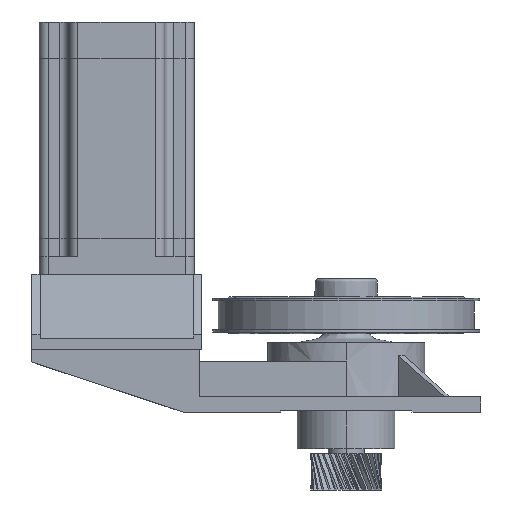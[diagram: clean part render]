
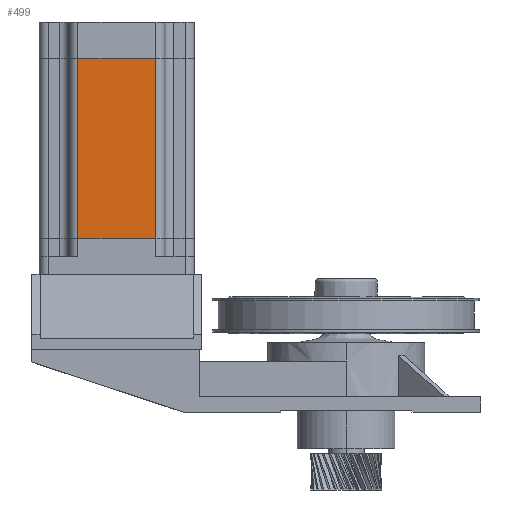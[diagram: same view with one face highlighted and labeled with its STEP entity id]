
A CAD part, left-side view. The second image highlights one B-rep face of the part: STEP entity #499.
In plain terms, the highlighted planar face has unit normal (-1, 0, 0).
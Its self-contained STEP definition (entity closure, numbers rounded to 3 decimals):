
#112=PLANE('',#7578);
#499=ADVANCED_FACE('',(#984),#112,.T.);
#984=FACE_OUTER_BOUND('',#1466,.T.);
#1466=EDGE_LOOP('',(#3540,#3541,#3542,#3543));
#3540=ORIENTED_EDGE('',*,*,#4935,.T.);
#3541=ORIENTED_EDGE('',*,*,#4941,.F.);
#3542=ORIENTED_EDGE('',*,*,#4940,.F.);
#3543=ORIENTED_EDGE('',*,*,#4939,.T.);
#4935=EDGE_CURVE('',#6989,#6990,#5426,.T.);
#4939=EDGE_CURVE('',#6993,#6989,#5428,.T.);
#4940=EDGE_CURVE('',#6993,#6994,#5429,.T.);
#4941=EDGE_CURVE('',#6994,#6990,#5430,.T.);
#5426=B_SPLINE_CURVE_WITH_KNOTS('',1,(#14285,#14286),.UNSPECIFIED.,.F.,
 .F.,(2,2),(0.,0.043),.UNSPECIFIED.);
#5428=B_SPLINE_CURVE_WITH_KNOTS('',1,(#14295,#14296),.UNSPECIFIED.,.F.,
 .F.,(2,2),(0.,0.111),.UNSPECIFIED.);
#5429=B_SPLINE_CURVE_WITH_KNOTS('',1,(#14297,#14298),.UNSPECIFIED.,.F.,
 .F.,(2,2),(0.,0.043),.UNSPECIFIED.);
#5430=B_SPLINE_CURVE_WITH_KNOTS('',1,(#14299,#14300),.UNSPECIFIED.,.F.,
 .F.,(2,2),(0.,0.111),.UNSPECIFIED.);
#6989=VERTEX_POINT('',#14207);
#6990=VERTEX_POINT('',#14208);
#6993=VERTEX_POINT('',#14211);
#6994=VERTEX_POINT('',#14212);
#7578=AXIS2_PLACEMENT_3D('',#14054,#7705,$);
#7705=DIRECTION('',(-1.,0.,0.));
#14054=CARTESIAN_POINT('',(-43.,98.85,95.503));
#14207=CARTESIAN_POINT('',(-43.,98.85,95.503));
#14208=CARTESIAN_POINT('',(-43.,55.65,95.503));
#14211=CARTESIAN_POINT('',(-43.,98.85,195.503));
#14212=CARTESIAN_POINT('',(-43.,55.65,195.503));
#14285=CARTESIAN_POINT('',(-43.,98.85,95.503));
#14286=CARTESIAN_POINT('',(-43.,55.65,95.503));
#14295=CARTESIAN_POINT('',(-43.,98.85,195.503));
#14296=CARTESIAN_POINT('',(-43.,98.85,95.503));
#14297=CARTESIAN_POINT('',(-43.,98.85,195.503));
#14298=CARTESIAN_POINT('',(-43.,55.65,195.503));
#14299=CARTESIAN_POINT('',(-43.,55.65,195.503));
#14300=CARTESIAN_POINT('',(-43.,55.65,95.503));
